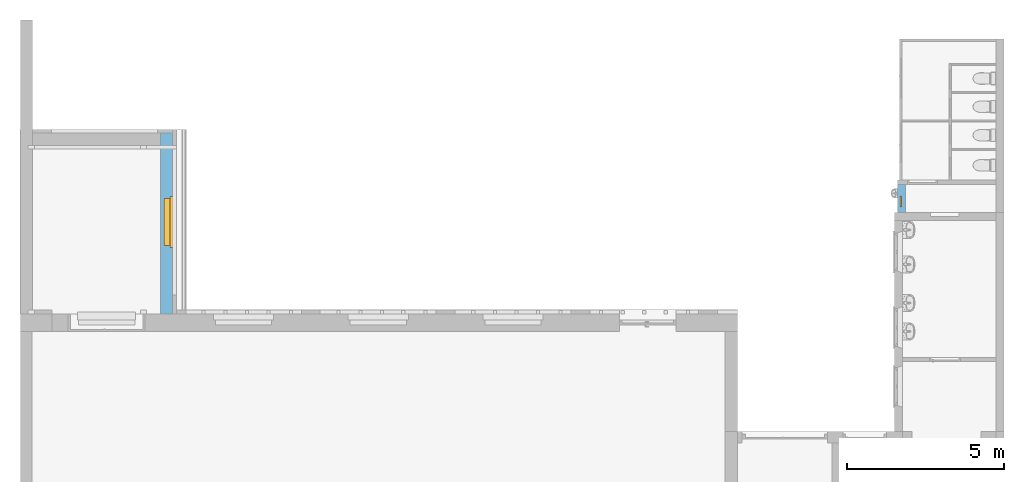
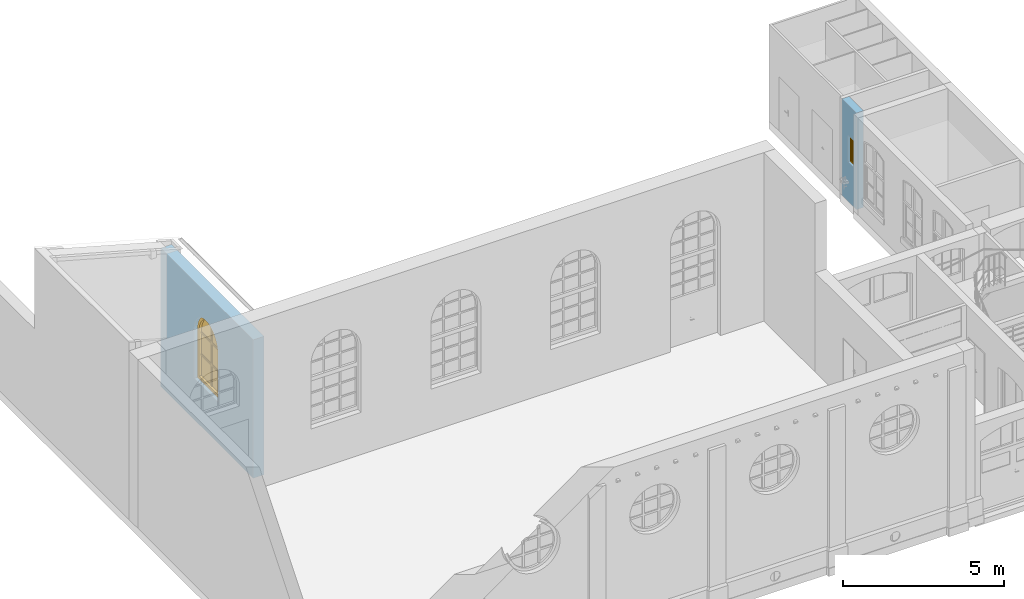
"""IFC4 building model written with IfcOpenShell, lengths in metres."""

from ifc_helpers import new_model, entity, si_unit, converted_unit, derived_unit, frame, frame_2d, origin, origin_with_axes, place, context, subcontext, project, spatial, polyline, rectangle, outline, extrude, closed_shell, open_shell, surface_model, source, transform, mapped, material, layer, layer_set, layer_usage, element, fill, save


model = new_model("IFC4")

# Units and contexts
model_context = context("Model", 3, precision=1e-05, world=origin())
body_context = subcontext(model_context, "Body", "Model", "MODEL_VIEW")
ifc_project = project(units=[si_unit("LENGTHUNIT", "METRE"), si_unit("AREAUNIT", "SQUARE_METRE"), si_unit("VOLUMEUNIT", "CUBIC_METRE"), si_unit("MASSUNIT", "GRAM", prefix="KILO"), converted_unit("PLANEANGLEUNIT", "DEGREE", entity("IfcPlaneAngleMeasure", 0.0174532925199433), si_unit("PLANEANGLEUNIT", "RADIAN"), dimensions=[0, 0, 0, 0, 0, 0, 0]), derived_unit("THERMALTRANSMITTANCEUNIT", [(si_unit("POWERUNIT", "WATT"), 1), (si_unit("THERMODYNAMICTEMPERATUREUNIT", "KELVIN"), -1), (si_unit("LENGTHUNIT", "METRE"), -2)]), derived_unit("VOLUMETRICFLOWRATEUNIT", [(si_unit("LENGTHUNIT", "METRE"), 3), (converted_unit("TIMEUNIT", "hour", entity("IfcTimeMeasure", 3600.0), si_unit("TIMEUNIT", "SECOND"), dimensions=[0, 0, 1, 0, 0, 0, 0]), -1), (si_unit("LENGTHUNIT", "METRE"), -1)])], contexts=[model_context])

# Building, storeys
building_placement = place(None, origin())
building = spatial("IfcBuilding", under=ifc_project, at=building_placement, Name="Bestandsgebäude A - Sporthalle / Wohnhaus (TB 100-499)   ANPASSEN !!!", CompositionType="ELEMENT")
storey_1_placement = place(building_placement, origin())
storey_1 = spatial("IfcBuildingStorey", under=building, at=storey_1_placement, Name="Geb. A Erdgeschoss (TB 200-249)", CompositionType="ELEMENT", Elevation=0.0)
storey_2_placement = place(storey_1_placement, origin())
storey_2 = spatial("IfcBuildingStorey", under=storey_1, at=storey_2_placement, Name="Architektur (TB 200-209)", CompositionType="PARTIAL")

# Wall, opening, window
ifc_material_1 = material(Name="concrete")
ifc_layer_1 = layer(ifc_material_1, 0.25)
ifc_layer_set_1 = layer_set([ifc_layer_1])
ifc_layer_usage_1 = layer_usage(ifc_layer_set_1, "AXIS2", "POSITIVE", 0.0)
wall_1_placement = place(storey_2_placement, frame((-3.39000000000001, 17.13, 0.0), z_axis=(0.0, 0.0, 1.0), x_axis=(0.0, -1.0, 0.0)))
wall_1 = element("IfcWall", 1, at=wall_1_placement, inside=storey_2, material=ifc_layer_usage_1, Name="reinforced - bearing", PredefinedType="USERDEFINED", context=body_context, shape_type="SweptSolid", body=[
    extrude(rectangle(XDim=0.9, YDim=0.25, at=frame_2d((0.45, 0.125), x_axis=(1.0, 0.0))), origin_with_axes(), (0.0, 0.0, 1.0), 3.67),
])
opening_1_placement = place(wall_1_placement, frame((0.369999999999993, 0.0, 1.5), z_axis=(0.0, 1.0, 0.0), x_axis=(0.0, 0.0, 1.0)))
opening_1 = element("IfcOpeningElement", 2, at=opening_1_placement, cuts=wall_1, Name="Window opening", PredefinedType="OPENING", context=body_context, shape_type="SweptSolid", body=[
    extrude(outline(polyline([(1.0, 0.36), (1.0, 0.0), (0.0, 0.0), (0.0, 0.36), (1.0, 0.36)])), origin_with_axes(), (0.0, 0.0, 1.0), 0.25),
])
shared_shape_1 = source(origin_with_axes(), body_context, "Body", "SurfaceModel", [
    surface_model("IfcShellBasedSurfaceModel", [(0.359999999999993, 0.0, 1.0), (0.359999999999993, 0.0, 0.0), (0.309999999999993, 0.0, 0.0), (0.309999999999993, 0.0, 1.0), (0.359999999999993, 0.0499999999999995, 0.0), (0.359999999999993, 0.0499999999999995, 1.0), (0.309999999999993, 0.0499999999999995, 1.0), (0.309999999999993, 0.0499999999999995, 0.0)], [closed_shell([[[0, 1, 2, 3]], [[4, 5, 6, 7]], [[1, 0, 5, 4]], [[2, 1, 4, 7]], [[3, 2, 7, 6]], [[0, 3, 6, 5]]], orient=[[False], [False], [False], [False], [False], [False]])]),
    surface_model("IfcShellBasedSurfaceModel", [(0.0499999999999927, 0.0, 1.0), (0.0499999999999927, 0.0, 0.0), (0.0, 0.0, 0.0), (0.0, 0.0, 1.0), (0.0499999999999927, 0.0499999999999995, 0.0), (0.0499999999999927, 0.0499999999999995, 1.0), (0.0, 0.0499999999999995, 1.0), (0.0, 0.0499999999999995, 0.0)], [closed_shell([[[0, 1, 2, 3]], [[4, 5, 6, 7]], [[1, 0, 5, 4]], [[2, 1, 4, 7]], [[3, 2, 7, 6]], [[0, 3, 6, 5]]], orient=[[False], [False], [False], [False], [False], [False]])]),
    surface_model("IfcShellBasedSurfaceModel", [(0.309999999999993, 0.0, 0.05), (0.309999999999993, 0.0, 0.0), (0.0499999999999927, 0.0, 0.0), (0.0499999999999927, 0.0, 0.05), (0.309999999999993, 0.0499999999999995, 0.0), (0.309999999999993, 0.0499999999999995, 0.05), (0.0499999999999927, 0.0499999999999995, 0.05), (0.0499999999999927, 0.0499999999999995, 0.0)], [closed_shell([[[0, 1, 2, 3]], [[4, 5, 6, 7]], [[1, 0, 5, 4]], [[2, 1, 4, 7]], [[3, 2, 7, 6]], [[0, 3, 6, 5]]], orient=[[False], [False], [False], [False], [False], [False]])]),
    surface_model("IfcShellBasedSurfaceModel", [(0.309999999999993, 0.0, 1.0), (0.309999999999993, 0.0, 0.95), (0.0499999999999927, 0.0, 0.95), (0.0499999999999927, 0.0, 1.0), (0.309999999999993, 0.0499999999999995, 0.95), (0.309999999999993, 0.0499999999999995, 1.0), (0.0499999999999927, 0.0499999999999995, 1.0), (0.0499999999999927, 0.0499999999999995, 0.95)], [closed_shell([[[0, 1, 2, 3]], [[4, 5, 6, 7]], [[1, 0, 5, 4]], [[2, 1, 4, 7]], [[3, 2, 7, 6]], [[0, 3, 6, 5]]], orient=[[False], [False], [False], [False], [False], [False]])]),
    surface_model("IfcShellBasedSurfaceModel", [(0.194999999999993, 0.0, 0.95), (0.194999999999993, 0.0, 0.05), (0.164999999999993, 0.0, 0.05), (0.164999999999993, 0.0, 0.95), (0.194999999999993, 0.0499999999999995, 0.05), (0.194999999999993, 0.0499999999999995, 0.95), (0.164999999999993, 0.0499999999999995, 0.95), (0.164999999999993, 0.0499999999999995, 0.05)], [closed_shell([[[0, 1, 2, 3]], [[4, 5, 6, 7]], [[1, 0, 5, 4]], [[2, 1, 4, 7]], [[3, 2, 7, 6]], [[0, 3, 6, 5]]], orient=[[False], [False], [False], [False], [False], [False]])]),
    surface_model("IfcShellBasedSurfaceModel", [(0.309999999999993, 0.0, 0.515), (0.309999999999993, 0.0, 0.485), (0.194999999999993, 0.0, 0.485), (0.194999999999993, 0.0, 0.515), (0.309999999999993, 0.0499999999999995, 0.485), (0.309999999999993, 0.0499999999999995, 0.515), (0.194999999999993, 0.0499999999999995, 0.515), (0.194999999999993, 0.0499999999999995, 0.485)], [closed_shell([[[0, 1, 2, 3]], [[4, 5, 6, 7]], [[1, 0, 5, 4]], [[2, 1, 4, 7]], [[3, 2, 7, 6]], [[0, 3, 6, 5]]], orient=[[False], [False], [False], [False], [False], [False]])]),
    surface_model("IfcShellBasedSurfaceModel", [(0.164999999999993, 0.0, 0.515), (0.164999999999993, 0.0, 0.485), (0.0499999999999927, 0.0, 0.485), (0.0499999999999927, 0.0, 0.515), (0.164999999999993, 0.0499999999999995, 0.485), (0.164999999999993, 0.0499999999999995, 0.515), (0.0499999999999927, 0.0499999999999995, 0.515), (0.0499999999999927, 0.0499999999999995, 0.485)], [closed_shell([[[0, 1, 2, 3]], [[4, 5, 6, 7]], [[1, 0, 5, 4]], [[2, 1, 4, 7]], [[3, 2, 7, 6]], [[0, 3, 6, 5]]], orient=[[False], [False], [False], [False], [False], [False]])]),
    surface_model("IfcShellBasedSurfaceModel", [(0.309999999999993, 0.0249999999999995, 0.05), (0.194999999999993, 0.0249999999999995, 0.05), (0.194999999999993, 0.0249999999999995, 0.485), (0.309999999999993, 0.0249999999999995, 0.485)], [open_shell([[[0, 1, 2, 3]]], orient=[[False]])]),
    surface_model("IfcShellBasedSurfaceModel", [(0.309999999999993, 0.0249999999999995, 0.515), (0.194999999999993, 0.0249999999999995, 0.515), (0.194999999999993, 0.0249999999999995, 0.95), (0.309999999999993, 0.0249999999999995, 0.95)], [open_shell([[[0, 1, 2, 3]]], orient=[[False]])]),
    surface_model("IfcShellBasedSurfaceModel", [(0.164999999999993, 0.0249999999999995, 0.05), (0.0499999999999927, 0.0249999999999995, 0.05), (0.0499999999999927, 0.0249999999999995, 0.485), (0.164999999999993, 0.0249999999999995, 0.485)], [open_shell([[[0, 1, 2, 3]]], orient=[[False]])]),
    surface_model("IfcShellBasedSurfaceModel", [(0.164999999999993, 0.0249999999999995, 0.515), (0.0499999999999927, 0.0249999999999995, 0.515), (0.0499999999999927, 0.0249999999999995, 0.95), (0.164999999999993, 0.0249999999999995, 0.95)], [open_shell([[[0, 1, 2, 3]]], orient=[[False]])]),
])
window_1_placement = place(opening_1_placement, frame((0.0, 0.36, 0.12), z_axis=(1.0, 0.0, 0.0), x_axis=(0.0, -1.0, 0.0)))
window_1 = element("IfcWindow", 3, at=window_1_placement, inside=storey_2, Name="Window", OverallHeight=1.0, OverallWidth=0.36, PartitioningType="USERDEFINED", PredefinedType="WINDOW", context=body_context, shape_type="MappedRepresentation", body=[
    mapped(shared_shape_1, transform((0.0, 0.0, 0.0), x_axis=(1.0, 0.0, 0.0), y_axis=(0.0, 1.0, 0.0), z_axis=(0.0, 0.0, 1.0), scale=1.0)),
])
fill(opening_1, window_1)

ifc_material_2 = material(Name="concrete")
ifc_layer_2 = layer(ifc_material_2, 0.39)
ifc_layer_set_2 = layer_set([ifc_layer_2])
ifc_layer_usage_2 = layer_usage(ifc_layer_set_2, "AXIS2", "POSITIVE", 0.0)
wall_2_placement = place(storey_2_placement, frame((-26.52, 13.0, 0.0), z_axis=(0.0, 0.0, 1.0), x_axis=(0.0, 1.0, 0.0)))
wall_2 = element("IfcWall", 4, at=wall_2_placement, inside=storey_2, material=ifc_layer_usage_2, Name="reinforced - bearing", PredefinedType="USERDEFINED", context=body_context, shape_type="SweptSolid", body=[
    extrude(rectangle(XDim=5.76, YDim=0.39, at=frame_2d((2.88, 0.195), x_axis=(1.0, 0.0))), origin_with_axes(), (0.0, 0.0, 1.0), 5.25),
])
opening_2_placement = place(wall_2_placement, frame((2.17914213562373, 0.0, 1.56), z_axis=(0.0, 1.0, 0.0), x_axis=(0.0, 0.0, 1.0)))
opening_2 = element("IfcOpeningElement", 5, at=opening_2_placement, cuts=wall_2, Name="Window opening", PredefinedType="OPENING", context=body_context, shape_type="SweptSolid", body=[
    extrude(outline(polyline([(1.8, 1.5), (1.88884919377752, 1.4958914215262), (1.97672493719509, 1.48361070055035), (2.0626644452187, 1.46329238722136), (2.14572614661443, 1.43515909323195), (2.225, 1.39951905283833), (2.2996174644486, 1.35676274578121), (2.36876101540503, 1.30735861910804), (2.43167310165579, 1.25184795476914), (2.48766444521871, 1.19083893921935), (2.53612159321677, 1.125), (2.57651363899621, 1.05505248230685), (2.60839803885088, 0.98176274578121), (2.63142546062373, 0.905933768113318), (2.64534361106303, 0.82839634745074), (2.65, 0.75), (2.64534361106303, 0.67160365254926), (2.63142546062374, 0.594066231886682), (2.60839803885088, 0.518237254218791), (2.57651363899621, 0.444947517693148), (2.53612159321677, 0.375), (2.48766444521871, 0.309161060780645), (2.43167310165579, 0.248152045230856), (2.36876101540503, 0.192641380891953), (2.2996174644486, 0.14323725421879), (2.225, 0.100480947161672), (2.14572614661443, 0.0648409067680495), (2.06266444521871, 0.0367076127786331), (1.97672493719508, 0.0163892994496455), (1.88884919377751, 0.00410857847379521), (1.8, 0.0), (0.0, 0.0), (0.0, 1.5), (1.8, 1.5)])), origin_with_axes(), (0.0, 0.0, 1.0), 0.39),
])
shared_shape_2 = source(origin_with_axes(), body_context, "Body", "SurfaceModel", [
    surface_model("IfcShellBasedSurfaceModel", [(-0.0599999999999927, 0.350000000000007, -0.1), (-0.0599999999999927, 0.350000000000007, 0.05), (-0.0599999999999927, 0.190000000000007, 0.05), (-0.0599999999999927, 0.190000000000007, -0.1), (1.56000000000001, 0.190000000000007, -0.0999999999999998), (1.56000000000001, 0.190000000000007, 0.0500000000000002), (1.56000000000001, 0.350000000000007, 0.0500000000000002), (1.56000000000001, 0.350000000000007, -0.0999999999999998)], [closed_shell([[[0, 1, 2, 3]], [[4, 5, 6, 7]], [[3, 4, 7, 0]], [[2, 5, 4, 3]], [[1, 6, 5, 2]], [[0, 7, 6, 1]]], orient=[[False], [False], [False], [False], [False], [False]])]),
    surface_model("IfcShellBasedSurfaceModel", [(1.50000000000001, 0.0, 0.0), (0.0, 0.0, 0.0), (0.0, 0.0, 1.8), (0.00410857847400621, 0.0, 1.888849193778), (0.0163892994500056, 0.0, 1.976724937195), (0.036707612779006, 0.0, 2.062664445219), (0.0648409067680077, 0.0, 2.145726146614), (0.100480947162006, 0.0, 2.225), (0.143237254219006, 0.0, 2.299617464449), (0.192641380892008, 0.0, 2.368761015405), (0.248152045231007, 0.0, 2.431673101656), (0.309161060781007, 0.0, 2.487664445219), (0.375000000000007, 0.0, 2.536121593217), (0.444947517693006, 0.0, 2.576513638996), (0.518237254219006, 0.0, 2.608398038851), (0.594066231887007, 0.0, 2.631425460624), (0.671603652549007, 0.0, 2.645343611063), (0.750000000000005, 0.0, 2.65), (0.828396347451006, 0.0, 2.645343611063), (0.905933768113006, 0.0, 2.631425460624), (0.981762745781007, 0.0, 2.608398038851), (1.05505248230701, 0.0, 2.576513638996), (1.12500000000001, 0.0, 2.536121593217), (1.19083893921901, 0.0, 2.487664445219), (1.25184795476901, 0.0, 2.431673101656), (1.307358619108, 0.0, 2.368761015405), (1.356762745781, 0.0, 2.299617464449), (1.399519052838, 0.0, 2.225), (1.43515909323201, 0.0, 2.145726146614), (1.463292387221, 0.0, 2.062664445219), (1.48361070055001, 0.0, 1.976724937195), (1.495891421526, 0.0, 1.888849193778), (1.50000000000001, 0.0, 1.8), (1.40000000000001, 0.0, 1.79768912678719), (1.39621229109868, 0.0, 1.87959942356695), (1.38521935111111, 0.0, 1.9582603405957), (1.36706223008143, 0.0, 2.03505874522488), (1.34198436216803, 0.0, 2.10909950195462), (1.31031994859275, 0.0, 2.17953040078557), (1.27248706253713, 0.0, 2.24555560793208), (1.22897846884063, 0.0, 2.30644806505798), (1.18035011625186, 0.0, 2.36156019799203), (1.12720749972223, 0.0, 2.41033211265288), (1.07019048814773, 0.0, 2.45229636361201), (1.00995773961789, 0.0, 2.48707849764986), (0.947172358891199, 0.0, 2.51439302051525), (0.882490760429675, 0.0, 2.53403525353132), (0.816556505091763, 0.0, 2.54587060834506), (0.750000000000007, 0.0, 2.54982376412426), (0.68344349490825, 0.0, 2.54587060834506), (0.617509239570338, 0.0, 2.53403525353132), (0.552827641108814, 0.0, 2.51439302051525), (0.490042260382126, 0.0, 2.48707849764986), (0.429809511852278, 0.0, 2.45229636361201), (0.372792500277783, 0.0, 2.41033211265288), (0.319649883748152, 0.0, 2.36156019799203), (0.271021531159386, 0.0, 2.30644806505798), (0.227512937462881, 0.0, 2.24555560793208), (0.189680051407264, 0.0, 2.17953040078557), (0.158015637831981, 0.0, 2.10909950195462), (0.132937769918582, 0.0, 2.03505874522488), (0.114780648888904, 0.0, 1.9582603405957), (0.103787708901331, 0.0, 1.87959942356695), (0.100000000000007, 0.0, 1.79768912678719), (0.100000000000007, 0.0, 0.1), (1.40000000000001, 0.0, 0.1), (1.50000000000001, 0.190000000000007, 1.8), (1.495891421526, 0.190000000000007, 1.888849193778), (1.48361070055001, 0.190000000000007, 1.976724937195), (1.463292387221, 0.190000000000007, 2.062664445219), (1.43515909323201, 0.190000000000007, 2.145726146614), (1.399519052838, 0.190000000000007, 2.225), (1.356762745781, 0.190000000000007, 2.299617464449), (1.307358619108, 0.190000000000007, 2.368761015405), (1.25184795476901, 0.190000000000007, 2.431673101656), (1.19083893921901, 0.190000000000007, 2.487664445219), (1.12500000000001, 0.190000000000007, 2.536121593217), (1.05505248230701, 0.190000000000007, 2.576513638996), (0.981762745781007, 0.190000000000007, 2.608398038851), (0.905933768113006, 0.190000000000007, 2.631425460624), (0.828396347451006, 0.190000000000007, 2.645343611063), (0.750000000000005, 0.190000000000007, 2.65), (0.671603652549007, 0.190000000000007, 2.645343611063), (0.594066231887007, 0.190000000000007, 2.631425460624), (0.518237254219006, 0.190000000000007, 2.608398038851), (0.444947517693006, 0.190000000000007, 2.576513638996), (0.375000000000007, 0.190000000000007, 2.536121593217), (0.309161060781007, 0.190000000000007, 2.487664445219), (0.248152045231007, 0.190000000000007, 2.431673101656), (0.192641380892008, 0.190000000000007, 2.368761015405), (0.143237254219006, 0.190000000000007, 2.299617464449), (0.100480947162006, 0.190000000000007, 2.225), (0.0648409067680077, 0.190000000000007, 2.145726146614), (0.036707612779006, 0.190000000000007, 2.062664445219), (0.0163892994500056, 0.190000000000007, 1.976724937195), (0.00410857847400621, 0.190000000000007, 1.888849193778), (0.0, 0.190000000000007, 1.8), (0.0, 0.190000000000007, 0.0), (1.50000000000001, 0.190000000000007, 0.0), (1.40000000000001, 0.190000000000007, 0.1), (0.100000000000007, 0.190000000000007, 0.1), (0.100000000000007, 0.190000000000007, 1.79768912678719), (0.103787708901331, 0.190000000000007, 1.87959942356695), (0.114780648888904, 0.190000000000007, 1.9582603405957), (0.132937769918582, 0.190000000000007, 2.03505874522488), (0.158015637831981, 0.190000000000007, 2.10909950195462), (0.189680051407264, 0.190000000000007, 2.17953040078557), (0.227512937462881, 0.190000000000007, 2.24555560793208), (0.271021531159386, 0.190000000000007, 2.30644806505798), (0.319649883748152, 0.190000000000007, 2.36156019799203), (0.372792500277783, 0.190000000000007, 2.41033211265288), (0.429809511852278, 0.190000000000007, 2.45229636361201), (0.490042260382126, 0.190000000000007, 2.48707849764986), (0.552827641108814, 0.190000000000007, 2.51439302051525), (0.617509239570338, 0.190000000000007, 2.53403525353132), (0.68344349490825, 0.190000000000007, 2.54587060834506), (0.750000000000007, 0.190000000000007, 2.54982376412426), (0.816556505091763, 0.190000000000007, 2.54587060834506), (0.882490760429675, 0.190000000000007, 2.53403525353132), (0.947172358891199, 0.190000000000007, 2.51439302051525), (1.00995773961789, 0.190000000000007, 2.48707849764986), (1.07019048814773, 0.190000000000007, 2.45229636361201), (1.12720749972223, 0.190000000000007, 2.41033211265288), (1.18035011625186, 0.190000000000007, 2.36156019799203), (1.22897846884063, 0.190000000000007, 2.30644806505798), (1.27248706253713, 0.190000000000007, 2.24555560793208), (1.31031994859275, 0.190000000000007, 2.17953040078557), (1.34198436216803, 0.190000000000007, 2.10909950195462), (1.36706223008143, 0.190000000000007, 2.03505874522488), (1.38521935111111, 0.190000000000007, 1.9582603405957), (1.39621229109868, 0.190000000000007, 1.87959942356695), (1.40000000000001, 0.190000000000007, 1.79768912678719)], [closed_shell([[[0, 1, 2, 3, 4, 5, 6, 7, 8, 9, 10, 11, 12, 13, 14, 15, 16, 17, 18, 19, 20, 21, 22, 23, 24, 25, 26, 27, 28, 29, 30, 31, 32], [33, 34, 35, 36, 37, 38, 39, 40, 41, 42, 43, 44, 45, 46, 47, 48, 49, 50, 51, 52, 53, 54, 55, 56, 57, 58, 59, 60, 61, 62, 63, 64, 65]], [[66, 67, 68, 69, 70, 71, 72, 73, 74, 75, 76, 77, 78, 79, 80, 81, 82, 83, 84, 85, 86, 87, 88, 89, 90, 91, 92, 93, 94, 95, 96, 97, 98], [99, 100, 101, 102, 103, 104, 105, 106, 107, 108, 109, 110, 111, 112, 113, 114, 115, 116, 117, 118, 119, 120, 121, 122, 123, 124, 125, 126, 127, 128, 129, 130, 131]], [[32, 66, 98, 0]], [[31, 67, 66, 32]], [[30, 68, 67, 31]], [[29, 69, 68, 30]], [[28, 70, 69, 29]], [[27, 71, 70, 28]], [[26, 72, 71, 27]], [[25, 73, 72, 26]], [[24, 74, 73, 25]], [[23, 75, 74, 24]], [[22, 76, 75, 23]], [[21, 77, 76, 22]], [[20, 78, 77, 21]], [[19, 79, 78, 20]], [[18, 80, 79, 19]], [[17, 81, 80, 18]], [[16, 82, 81, 17]], [[15, 83, 82, 16]], [[14, 84, 83, 15]], [[13, 85, 84, 14]], [[12, 86, 85, 13]], [[11, 87, 86, 12]], [[10, 88, 87, 11]], [[9, 89, 88, 10]], [[8, 90, 89, 9]], [[7, 91, 90, 8]], [[6, 92, 91, 7]], [[5, 93, 92, 6]], [[4, 94, 93, 5]], [[3, 95, 94, 4]], [[2, 96, 95, 3]], [[1, 97, 96, 2]], [[0, 98, 97, 1]], [[33, 65, 99, 131]], [[34, 33, 131, 130]], [[35, 34, 130, 129]], [[36, 35, 129, 128]], [[37, 36, 128, 127]], [[38, 37, 127, 126]], [[39, 38, 126, 125]], [[40, 39, 125, 124]], [[41, 40, 124, 123]], [[42, 41, 123, 122]], [[43, 42, 122, 121]], [[44, 43, 121, 120]], [[45, 44, 120, 119]], [[46, 45, 119, 118]], [[47, 46, 118, 117]], [[48, 47, 117, 116]], [[49, 48, 116, 115]], [[50, 49, 115, 114]], [[51, 50, 114, 113]], [[52, 51, 113, 112]], [[53, 52, 112, 111]], [[54, 53, 111, 110]], [[55, 54, 110, 109]], [[56, 55, 109, 108]], [[57, 56, 108, 107]], [[58, 57, 107, 106]], [[59, 58, 106, 105]], [[60, 59, 105, 104]], [[61, 60, 104, 103]], [[62, 61, 103, 102]], [[63, 62, 102, 101]], [[64, 63, 101, 100]], [[65, 64, 100, 99]]], orient=[[False, False], [False, False], [False], [False], [False], [False], [False], [False], [False], [False], [False], [False], [False], [False], [False], [False], [False], [False], [False], [False], [False], [False], [False], [False], [False], [False], [False], [False], [False], [False], [False], [False], [False], [False], [False], [False], [False], [False], [False], [False], [False], [False], [False], [False], [False], [False], [False], [False], [False], [False], [False], [False], [False], [False], [False], [False], [False], [False], [False], [False], [False], [False], [False], [False], [False], [False], [False], [False]])]),
    surface_model("IfcShellBasedSurfaceModel", [(0.725000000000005, 0.0700000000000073, 2.54833887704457), (0.750000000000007, 0.0700000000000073, 2.54982376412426), (0.775000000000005, 0.0700000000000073, 2.54833887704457), (0.775000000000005, 0.0700000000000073, 0.1), (0.725000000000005, 0.0700000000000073, 0.1), (0.725000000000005, 0.120000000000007, 0.1), (0.775000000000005, 0.120000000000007, 0.1), (0.775000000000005, 0.120000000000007, 2.54833887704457), (0.750000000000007, 0.120000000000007, 2.54982376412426), (0.725000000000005, 0.120000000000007, 2.54833887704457)], [closed_shell([[[0, 1, 2, 3, 4]], [[5, 6, 7, 8, 9]], [[4, 5, 9, 0]], [[3, 6, 5, 4]], [[2, 7, 6, 3]], [[1, 8, 7, 2]], [[0, 9, 8, 1]]], orient=[[False], [False], [False], [False], [False], [False], [False]])]),
    surface_model("IfcShellBasedSurfaceModel", [(0.100000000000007, 0.0700000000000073, 0.933413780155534), (0.725000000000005, 0.0700000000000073, 0.933413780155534), (0.725000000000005, 0.0700000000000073, 0.883413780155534), (0.100000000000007, 0.0700000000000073, 0.883413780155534), (0.100000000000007, 0.120000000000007, 0.883413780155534), (0.725000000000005, 0.120000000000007, 0.883413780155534), (0.725000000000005, 0.120000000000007, 0.933413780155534), (0.100000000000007, 0.120000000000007, 0.933413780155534)], [closed_shell([[[0, 1, 2, 3]], [[4, 5, 6, 7]], [[3, 4, 7, 0]], [[2, 5, 4, 3]], [[1, 6, 5, 2]], [[0, 7, 6, 1]]], orient=[[False], [False], [False], [False], [False], [False]])]),
    surface_model("IfcShellBasedSurfaceModel", [(0.100000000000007, 0.0700000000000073, 1.76492509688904), (0.725000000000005, 0.0700000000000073, 1.76492509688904), (0.725000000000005, 0.0700000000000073, 1.71492509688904), (0.100000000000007, 0.0700000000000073, 1.71492509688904), (0.100000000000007, 0.120000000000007, 1.71492509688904), (0.725000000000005, 0.120000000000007, 1.71492509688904), (0.725000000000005, 0.120000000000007, 1.76492509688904), (0.100000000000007, 0.120000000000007, 1.76492509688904)], [closed_shell([[[0, 1, 2, 3]], [[4, 5, 6, 7]], [[3, 4, 7, 0]], [[2, 5, 4, 3]], [[1, 6, 5, 2]], [[0, 7, 6, 1]]], orient=[[False], [False], [False], [False], [False], [False]])]),
    surface_model("IfcShellBasedSurfaceModel", [(0.775000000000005, 0.0700000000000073, 0.933413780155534), (1.40000000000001, 0.0700000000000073, 0.933413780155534), (1.40000000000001, 0.0700000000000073, 0.883413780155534), (0.775000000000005, 0.0700000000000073, 0.883413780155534), (0.775000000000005, 0.120000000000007, 0.883413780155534), (1.40000000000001, 0.120000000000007, 0.883413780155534), (1.40000000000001, 0.120000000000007, 0.933413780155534), (0.775000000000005, 0.120000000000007, 0.933413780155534)], [closed_shell([[[0, 1, 2, 3]], [[4, 5, 6, 7]], [[3, 4, 7, 0]], [[2, 5, 4, 3]], [[1, 6, 5, 2]], [[0, 7, 6, 1]]], orient=[[False], [False], [False], [False], [False], [False]])]),
    surface_model("IfcShellBasedSurfaceModel", [(0.775000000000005, 0.0700000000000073, 1.76492509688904), (1.40000000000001, 0.0700000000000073, 1.76492509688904), (1.40000000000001, 0.0700000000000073, 1.71492509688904), (0.775000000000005, 0.0700000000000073, 1.71492509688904), (0.775000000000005, 0.120000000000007, 1.71492509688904), (1.40000000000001, 0.120000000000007, 1.71492509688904), (1.40000000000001, 0.120000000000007, 1.76492509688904), (0.775000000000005, 0.120000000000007, 1.76492509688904)], [closed_shell([[[0, 1, 2, 3]], [[4, 5, 6, 7]], [[3, 4, 7, 0]], [[2, 5, 4, 3]], [[1, 6, 5, 2]], [[0, 7, 6, 1]]], orient=[[False], [False], [False], [False], [False], [False]])]),
    surface_model("IfcShellBasedSurfaceModel", [(0.100000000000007, 0.0950000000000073, 0.883413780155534), (0.725000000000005, 0.0950000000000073, 0.883413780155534), (0.725000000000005, 0.0950000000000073, 0.1), (0.100000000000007, 0.0950000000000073, 0.1)], [open_shell([[[0, 1, 2, 3]]], orient=[[False]])]),
    surface_model("IfcShellBasedSurfaceModel", [(0.100000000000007, 0.0950000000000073, 1.71492509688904), (0.725000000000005, 0.0950000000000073, 1.71492509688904), (0.725000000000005, 0.0950000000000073, 0.933413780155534), (0.100000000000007, 0.0950000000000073, 0.933413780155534)], [open_shell([[[0, 1, 2, 3]]], orient=[[False]])]),
    surface_model("IfcShellBasedSurfaceModel", [(0.103787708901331, 0.0950000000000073, 1.87959942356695), (0.114780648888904, 0.0950000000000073, 1.9582603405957), (0.132937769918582, 0.0950000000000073, 2.03505874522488), (0.158015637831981, 0.0950000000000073, 2.10909950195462), (0.189680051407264, 0.0950000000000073, 2.17953040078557), (0.227512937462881, 0.0950000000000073, 2.24555560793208), (0.271021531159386, 0.0950000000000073, 2.30644806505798), (0.319649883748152, 0.0950000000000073, 2.36156019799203), (0.372792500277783, 0.0950000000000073, 2.41033211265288), (0.429809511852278, 0.0950000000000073, 2.45229636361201), (0.490042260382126, 0.0950000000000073, 2.48707849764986), (0.552827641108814, 0.0950000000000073, 2.51439302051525), (0.617509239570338, 0.0950000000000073, 2.53403525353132), (0.68344349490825, 0.0950000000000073, 2.54587060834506), (0.725000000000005, 0.0950000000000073, 2.54833887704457), (0.725000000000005, 0.0950000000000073, 1.76492509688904), (0.100000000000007, 0.0950000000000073, 1.76492509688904), (0.100000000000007, 0.0950000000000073, 1.79768912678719)], [open_shell([[[0, 1, 2, 3, 4, 5, 6, 7, 8, 9, 10, 11, 12, 13, 14, 15, 16, 17]]], orient=[[False]])]),
    surface_model("IfcShellBasedSurfaceModel", [(0.775000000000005, 0.0950000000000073, 0.883413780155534), (1.40000000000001, 0.0950000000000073, 0.883413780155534), (1.40000000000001, 0.0950000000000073, 0.1), (0.775000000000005, 0.0950000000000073, 0.1)], [open_shell([[[0, 1, 2, 3]]], orient=[[False]])]),
    surface_model("IfcShellBasedSurfaceModel", [(0.775000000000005, 0.0950000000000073, 1.71492509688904), (1.40000000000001, 0.0950000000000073, 1.71492509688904), (1.40000000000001, 0.0950000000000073, 0.933413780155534), (0.775000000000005, 0.0950000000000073, 0.933413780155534)], [open_shell([[[0, 1, 2, 3]]], orient=[[False]])]),
    surface_model("IfcShellBasedSurfaceModel", [(0.816556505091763, 0.0950000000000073, 2.54587060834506), (0.882490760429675, 0.0950000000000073, 2.53403525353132), (0.947172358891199, 0.0950000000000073, 2.51439302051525), (1.00995773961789, 0.0950000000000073, 2.48707849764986), (1.07019048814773, 0.0950000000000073, 2.45229636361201), (1.12720749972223, 0.0950000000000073, 2.41033211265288), (1.18035011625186, 0.0950000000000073, 2.36156019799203), (1.22897846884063, 0.0950000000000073, 2.30644806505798), (1.27248706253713, 0.0950000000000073, 2.24555560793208), (1.31031994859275, 0.0950000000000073, 2.17953040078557), (1.34198436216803, 0.0950000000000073, 2.10909950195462), (1.36706223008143, 0.0950000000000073, 2.03505874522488), (1.38521935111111, 0.0950000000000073, 1.9582603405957), (1.39621229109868, 0.0950000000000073, 1.87959942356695), (1.40000000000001, 0.0950000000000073, 1.79768912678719), (1.40000000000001, 0.0950000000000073, 1.76492509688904), (0.775000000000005, 0.0950000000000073, 1.76492509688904), (0.775000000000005, 0.0950000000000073, 2.54833887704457)], [open_shell([[[0, 1, 2, 3, 4, 5, 6, 7, 8, 9, 10, 11, 12, 13, 14, 15, 16, 17]]], orient=[[False]])]),
])
window_2_placement = place(opening_2_placement, frame((0.0, 1.5, 0.27), z_axis=(1.0, 0.0, 0.0), x_axis=(0.0, -1.0, 0.0)))
window_2 = element("IfcWindow", 6, at=window_2_placement, inside=storey_2, Name="Window", OverallHeight=2.65, OverallWidth=1.5, PartitioningType="USERDEFINED", PredefinedType="WINDOW", context=body_context, shape_type="MappedRepresentation", body=[
    mapped(shared_shape_2, transform((0.0, 0.0, 0.0), x_axis=(1.0, 0.0, 0.0), y_axis=(0.0, 1.0, 0.0), z_axis=(0.0, 0.0, 1.0), scale=1.0)),
])
fill(opening_2, window_2)

save(model, "model.ifc")
